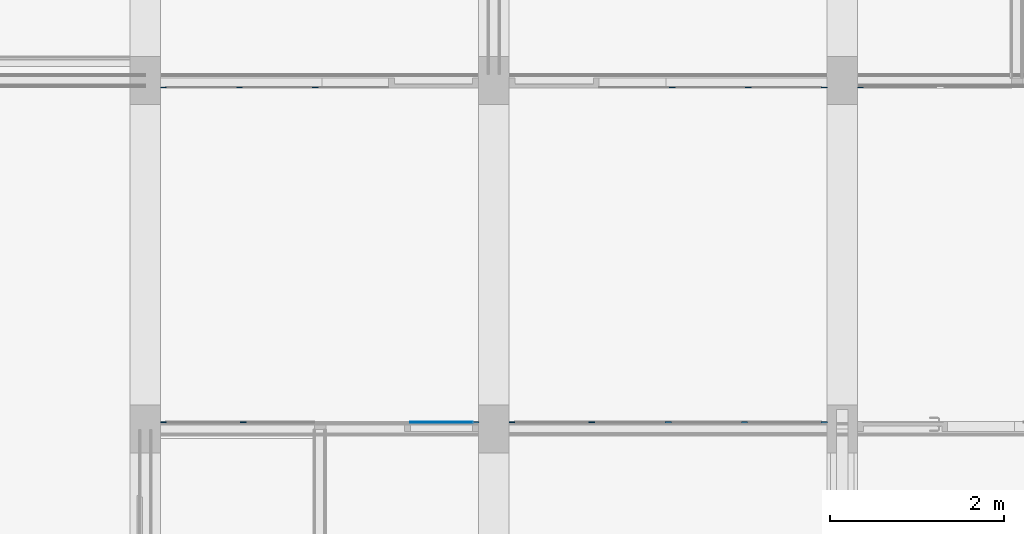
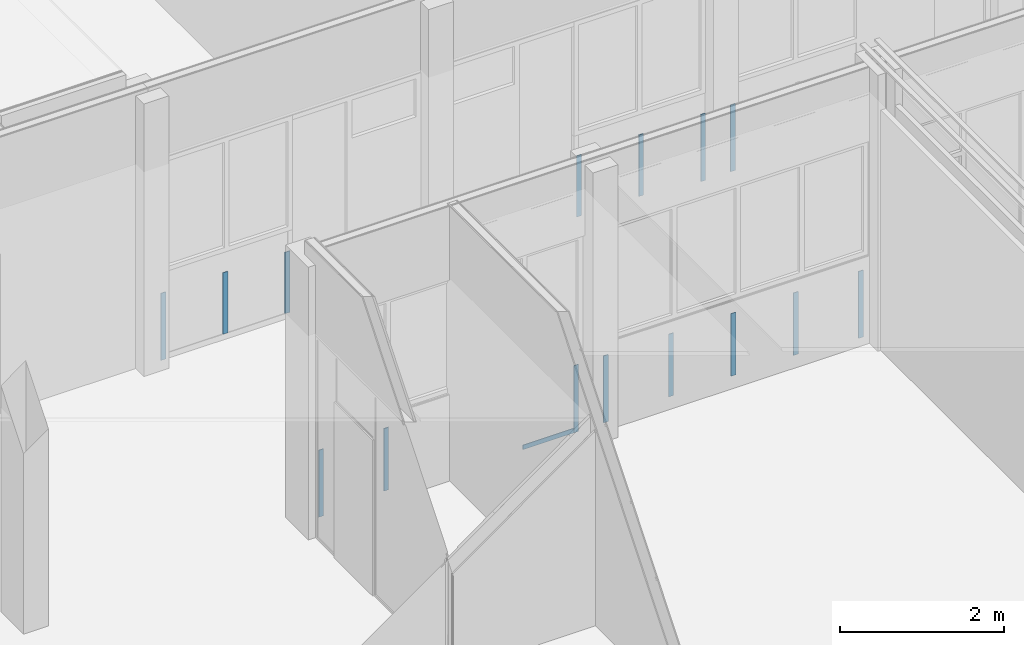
# One storey, part 30 of 94: 17 walls.
"""IFC2X3 building model written with IfcOpenShell, lengths in millimetres."""

from ifc_helpers import new_model, entity, si_unit, converted_unit, derived_unit, money_unit, direction, frame, origin_with_axes, place, context, subcontext, project, spatial, faceted_brep, material, type_object, element, save


model = new_model("IFC2X3")

# Units and contexts
model_context = context("Model", 3, precision=0.01, world=origin_with_axes(), true_north=direction((0.0, 1.0)))
body_context = subcontext(model_context, "Body", "Model", "MODEL_VIEW")
ifc_project = project(units=[si_unit("LENGTHUNIT", "METRE", prefix="MILLI"), si_unit("AREAUNIT", "SQUARE_METRE"), si_unit("VOLUMEUNIT", "CUBIC_METRE"), converted_unit("PLANEANGLEUNIT", "DEGREE", entity("IfcPlaneAngleMeasure", 0.0174532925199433), si_unit("PLANEANGLEUNIT", "RADIAN"), dimensions=[0, 0, 0, 0, 0, 0, 0]), money_unit("EUR"), converted_unit("TIMEUNIT", "Year", entity("IfcTimeMeasure", 31557600.0), si_unit("TIMEUNIT", "SECOND"), dimensions=[0, 0, 1, 0, 0, 0, 0]), si_unit("MASSUNIT", "GRAM", prefix="KILO"), si_unit("THERMODYNAMICTEMPERATUREUNIT", "DEGREE_CELSIUS"), si_unit("LUMINOUSINTENSITYUNIT", "LUMEN"), si_unit("ENERGYUNIT", "JOULE", prefix="MEGA"), derived_unit("THERMALCONDUCTANCEUNIT", [(si_unit("POWERUNIT", "WATT"), 1), (si_unit("LENGTHUNIT", "METRE"), -1), (si_unit("THERMODYNAMICTEMPERATUREUNIT", "KELVIN"), -1)]), derived_unit("SPECIFICHEATCAPACITYUNIT", [(si_unit("ENERGYUNIT", "JOULE"), 1), (si_unit("MASSUNIT", "GRAM", prefix="KILO"), -1), (si_unit("THERMODYNAMICTEMPERATUREUNIT", "KELVIN"), -1)]), derived_unit("MASSDENSITYUNIT", [(si_unit("MASSUNIT", "GRAM", prefix="KILO"), 1), (si_unit("VOLUMEUNIT", "CUBIC_METRE"), -1)])], contexts=[model_context])

# Site, building, storey
site_placement = place(None, origin_with_axes())
site = spatial("IfcSite", under=ifc_project, at=site_placement, Name="<site naam>", CompositionType="ELEMENT")
building_placement = place(site_placement, origin_with_axes())
building = spatial("IfcBuilding", under=site, at=building_placement, Name="<Naam gebouw>", CompositionType="ELEMENT")
storey_placement = place(building_placement, frame((0.0, 0.0, 4250.0), z_axis=(0.0, 0.0, 1.0), x_axis=(1.0, 0.0, 0.0)))
storey = spatial("IfcBuildingStorey", under=building, at=storey_placement, Name="01 1e verdieping", CompositionType="ELEMENT", Elevation=4250.0)

# Walls
ifc_material = material(Name="ALG - BUITENAFWERKING")
wall_type = type_object("IfcWallType", Name="ALG - BUITENAFWERKING 10", PredefinedType="NOTDEFINED")
wall_1_placement = place(storey_placement, frame((27757.93390346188, 8075.000000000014, 3.000000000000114), z_axis=(0.0, 0.0, 1.0), x_axis=(1.0, 0.0, 0.0)))
element("IfcWall", 1, at=wall_1_placement, inside=storey, type_object=wall_type, material=ifc_material, Name="42_Binnenwand_ALG", context=body_context, shape_type="Brep", body=[
    faceted_brep([(0.0, 0.0, 995.9999999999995), (67.00000000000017, 0.0, 995.9999999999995), (67.00000000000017, 9.999999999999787, 995.9999999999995), (0.0, 9.999999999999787, 995.9999999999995), (0.0, 0.0, 0.0), (67.00000000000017, 0.0, 0.0), (67.00000000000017, 9.999999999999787, 0.0), (0.0, 9.999999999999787, 0.0)], [[[0, 1, 2, 3]], [[4, 5, 1, 0]], [[2, 1, 5, 6]], [[3, 2, 6, 7]], [[4, 0, 3, 7]], [[7, 6, 5, 4]]]),
])
for number, where, z_axis, x_axis, name in (
    (2, (25966.46698874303, 8075.000000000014, 70.00000000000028), (0.0, 0.0, 1.0), (1.0, 0.0, 0.0), "42_Binnenwand_ALG"),
    (3, (25966.46695173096, 8075.000000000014, 70.00000000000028), (0.0, 0.0, 1.0), (1.0, 0.0, 0.0), "42_Binnenwand_ALG"),
    (4, (26842.71778169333, 8075.000000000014, 70.00000000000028), (0.0, 0.0, 1.0), (1.0, 0.0, 0.0), "42_Binnenwand_ALG"),
):
    element("IfcWall", number, at=place(storey_placement, frame(where, z_axis=z_axis, x_axis=x_axis)), inside=storey, type_object=wall_type, material=ifc_material, Name=name, context=body_context, shape_type="Brep", body=[
        faceted_brep([(0.0, 0.0, 928.9999999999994), (67.00000000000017, 0.0, 928.9999999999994), (67.00000000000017, 9.999999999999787, 928.9999999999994), (0.0, 9.999999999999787, 928.9999999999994), (0.0, 0.0, 0.0), (67.00000000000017, 0.0, 0.0), (67.00000000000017, 9.999999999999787, 0.0), (0.0, 9.999999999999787, 0.0)], [[[0, 1, 2, 3]], [[4, 5, 1, 0]], [[2, 1, 5, 6]], [[3, 2, 6, 7]], [[4, 0, 3, 7]], [[7, 6, 5, 4]]]),
    ])
wall_2_placement = place(storey_placement, frame((24175.00000000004, 8075.000000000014, 0.0), z_axis=(0.0, 0.0, 1.0), x_axis=(1.0, 0.0, 0.0)))
element("IfcWall", 5, at=wall_2_placement, inside=storey, type_object=wall_type, material=ifc_material, Name="42_Binnenwand_ALG", context=body_context, shape_type="Brep", body=[
    faceted_brep([(67.00000000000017, 0.0, 998.9999999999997), (67.00000000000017, 0.0, 3.000000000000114), (67.00000000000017, 9.999999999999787, 3.000000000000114), (67.00000000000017, 9.999999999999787, 998.9999999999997), (0.0, 0.0, 998.9999999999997), (0.0, 0.0, 3.000000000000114), (0.0, 9.999999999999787, 3.000000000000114), (0.0, 9.999999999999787, 998.9999999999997)], [[[0, 1, 2, 3]], [[4, 5, 1, 0]], [[5, 6, 2, 1]], [[3, 2, 6, 7]], [[7, 4, 0, 3]], [[7, 6, 5, 4]]]),
])
wall_3_placement = place(storey_placement, frame((25157.28201268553, 8075.000000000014, 70.00000000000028), z_axis=(0.0, 0.0, 1.0), x_axis=(-1.0, 0.0, 0.0)))
element("IfcWall", 6, at=wall_3_placement, inside=storey, type_object=wall_type, material=ifc_material, Name="42_Binnenwand_ALG", context=body_context, shape_type="Brep", body=[
    faceted_brep([(0.0, 0.0, 0.0), (67.00000000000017, 0.0, 0.0), (67.00000000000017, -9.999999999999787, 0.0), (0.0, -9.999999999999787, 0.0), (0.0, 0.0, 928.9999999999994), (67.00000000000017, 0.0, 928.9999999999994), (67.00000000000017, -9.999999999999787, 928.9999999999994), (0.0, -9.999999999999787, 928.9999999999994)], [[[0, 1, 2, 3]], [[4, 5, 1, 0]], [[2, 1, 5, 6]], [[3, 2, 6, 7]], [[4, 0, 3, 7]], [[7, 6, 5, 4]]]),
])
wall_4_placement = place(storey_placement, frame((27758.00000000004, 11925.00000000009, 0.0), z_axis=(0.0, 0.0, 1.0), x_axis=(1.0, 0.0, 0.0)))
element("IfcWall", 7, at=wall_4_placement, inside=storey, type_object=wall_type, material=ifc_material, Name="42_Binnenwand_ALG", context=body_context, shape_type="Brep", body=[
    faceted_brep([(67.00000000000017, -9.999999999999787, 999.0000000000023), (66.9999999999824, -9.999999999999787, 3.000000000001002), (66.9999999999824, 0.0, 3.000000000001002), (67.00000000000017, 0.0, 999.0000000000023), (0.0, -9.999999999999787, 999.0000000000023), (0.0, -9.999999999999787, 3.000000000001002), (0.0, 0.0, 3.000000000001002), (0.0, 0.0, 999.0000000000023)], [[[0, 1, 2, 3]], [[4, 5, 1, 0]], [[5, 6, 2, 1]], [[3, 2, 6, 7]], [[7, 4, 0, 3]], [[7, 6, 5, 4]]]),
])
wall_5_placement = place(storey_placement, frame((26014.41146493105, 11925.00000000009, 86.99999999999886), z_axis=(0.0, 0.0, 1.0), x_axis=(1.0, 0.0, 0.0)))
element("IfcWall", 8, at=wall_5_placement, inside=storey, type_object=wall_type, material=ifc_material, Name="42_Binnenwand_ALG", context=body_context, shape_type="Brep", body=[
    faceted_brep([(0.0, 0.0, 0.0), (67.00000000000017, 0.0, 0.0), (67.00000000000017, -9.999999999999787, 0.0), (0.0, -9.999999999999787, 0.0), (0.0, 0.0, 912.0000000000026), (67.00000000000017, 0.0, 912.0000000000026), (67.00000000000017, -9.999999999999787, 912.0000000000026), (0.0, -9.999999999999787, 912.0000000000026)], [[[0, 1, 2, 3]], [[4, 5, 1, 0]], [[2, 1, 5, 6]], [[3, 2, 6, 7]], [[4, 0, 3, 7]], [[7, 6, 5, 4]]]),
])
wall_6_placement = place(storey_placement, frame((20242.00000000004, 11925.00000000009, 0.0), z_axis=(0.0, 0.0, 1.0), x_axis=(-1.0, 0.0, 0.0)))
element("IfcWall", 9, at=wall_6_placement, inside=storey, type_object=wall_type, material=ifc_material, Name="42_Binnenwand_ALG", context=body_context, shape_type="Brep", body=[
    faceted_brep([(0.0, 9.999999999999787, 999.0000000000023), (0.0, 9.999999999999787, 3.000000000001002), (0.0, 0.0, 3.000000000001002), (0.0, 0.0, 999.0000000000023), (67.00000000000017, 9.999999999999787, 999.0000000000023), (67.00000000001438, 9.999999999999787, 3.000000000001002), (67.00000000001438, 0.0, 3.000000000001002), (67.00000000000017, 0.0, 999.0000000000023)], [[[0, 1, 2, 3]], [[4, 5, 1, 0]], [[5, 6, 2, 1]], [[3, 2, 6, 7]], [[0, 3, 7, 4]], [[7, 6, 5, 4]]]),
])
wall_7_placement = place(storey_placement, frame((26886.00084066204, 11925.00000000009, 86.99999999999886), z_axis=(0.0, 0.0, 1.0), x_axis=(1.0, 0.0, 0.0)))
element("IfcWall", 10, at=wall_7_placement, inside=storey, type_object=wall_type, material=ifc_material, Name="42_Binnenwand_ALG", context=body_context, shape_type="Brep", body=[
    faceted_brep([(0.0, 0.0, 0.0), (67.00000000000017, 0.0, 0.0), (67.00000000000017, -9.999999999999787, 0.0), (0.0, -9.999999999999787, 0.0), (0.0, 0.0, 912.0000000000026), (67.00000000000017, 0.0, 912.0000000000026), (67.00000000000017, -9.999999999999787, 912.0000000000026), (0.0, -9.999999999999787, 912.0000000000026)], [[[0, 1, 2, 3]], [[4, 5, 1, 0]], [[2, 1, 5, 6]], [[3, 2, 6, 7]], [[4, 0, 3, 7]], [[7, 6, 5, 4]]]),
])
for number, where, z_axis, x_axis, name in (
    (11, (21985.58853506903, 11925.00000000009, 86.99999999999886), (0.0, 0.0, 1.0), (-1.0, 0.0, 0.0), "42_Binnenwand_ALG"),
    (12, (21113.99915933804, 11925.00000000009, 86.99999999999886), (0.0, 0.0, 1.0), (-1.0, 0.0, 0.0), "42_Binnenwand_ALG"),
):
    element("IfcWall", number, at=place(storey_placement, frame(where, z_axis=z_axis, x_axis=x_axis)), inside=storey, type_object=wall_type, material=ifc_material, Name=name, context=body_context, shape_type="Brep", body=[
        faceted_brep([(0.0, 0.0, 912.0000000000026), (67.00000000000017, 0.0, 912.0000000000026), (67.00000000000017, 9.999999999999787, 912.0000000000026), (0.0, 9.999999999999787, 912.0000000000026), (0.0, 0.0, 0.0), (67.00000000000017, 0.0, 0.0), (67.00000000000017, 9.999999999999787, 0.0), (0.0, 9.999999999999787, 0.0)], [[[0, 1, 2, 3]], [[4, 5, 1, 0]], [[2, 1, 5, 6]], [[3, 2, 6, 7]], [[4, 0, 3, 7]], [[7, 6, 5, 4]]]),
    ])
wall_8_placement = place(storey_placement, frame((20175.00010281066, 8075.000000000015, 0.0), z_axis=(0.0, 0.0, 1.0), x_axis=(1.0, 0.0, 0.0)))
element("IfcWall", 13, at=wall_8_placement, inside=storey, type_object=wall_type, material=ifc_material, Name="42_Binnenwand_ALG", context=body_context, shape_type="Brep", body=[
    faceted_brep([(67.00000000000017, 0.0, 998.9999999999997), (67.00000000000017, 0.0, 3.000000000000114), (67.00000000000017, 9.999999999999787, 3.000000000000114), (67.00000000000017, 9.999999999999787, 998.9999999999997), (0.0, 0.0, 998.9999999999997), (-0.0001028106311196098, 0.0, 3.000000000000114), (-0.0001028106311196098, 9.999999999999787, 3.000000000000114), (0.0, 9.999999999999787, 998.9999999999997)], [[[0, 1, 2, 3]], [[4, 5, 1, 0]], [[5, 6, 2, 1]], [[3, 2, 6, 7]], [[7, 4, 0, 3]], [[7, 6, 5, 4]]]),
])
wall_9_placement = place(storey_placement, frame((28175.00010281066, 11925.00000000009, 0.0), z_axis=(0.0, 0.0, 1.0), x_axis=(1.0, 0.0, 0.0)))
element("IfcWall", 14, at=wall_9_placement, inside=storey, type_object=wall_type, material=ifc_material, Name="42_Binnenwand_ALG", context=body_context, shape_type="Brep", body=[
    faceted_brep([(67.00000000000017, -9.999999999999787, 998.9999999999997), (67.00000000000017, -9.999999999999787, 3.000000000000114), (67.00000000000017, 0.0, 3.000000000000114), (67.00000000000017, 0.0, 998.9999999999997), (0.0, -9.999999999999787, 998.9999999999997), (-0.0001028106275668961, -9.999999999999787, 3.000000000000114), (-0.0001028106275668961, 0.0, 3.000000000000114), (0.0, 0.0, 998.9999999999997)], [[[0, 1, 2, 3]], [[4, 5, 1, 0]], [[5, 6, 2, 1]], [[3, 2, 6, 7]], [[7, 4, 0, 3]], [[7, 6, 5, 4]]]),
])
wall_10_placement = place(storey_placement, frame((23042.26997527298, 8075.000000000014, 3.000000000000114), z_axis=(0.0, 0.0, 1.0), x_axis=(1.0, 0.0, 0.0)))
element("IfcWall", 15, at=wall_10_placement, inside=storey, type_object=wall_type, material=ifc_material, Name="42_Binnenwand_ALG", context=body_context, shape_type="Brep", body=[
    faceted_brep([(0.0, 0.0, 67.00000000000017), (714.7299877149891, 0.0, 67.00000000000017), (714.7299877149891, 9.99999999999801, 67.00000000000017), (0.0, 9.999999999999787, 67.00000000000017), (0.0, 0.0, 0.0), (714.7299877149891, 0.0, 0.0), (714.7299877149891, 9.99999999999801, 0.0), (0.0, 9.999999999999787, 0.0)], [[[0, 1, 2, 3]], [[4, 5, 1, 0]], [[2, 1, 5, 6]], [[3, 2, 6, 7]], [[4, 0, 3, 7]], [[7, 6, 5, 4]]]),
])
wall_11_placement = place(storey_placement, frame((21157.28211549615, 8075.000000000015, 70.00000000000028), z_axis=(0.0, 0.0, 1.0), x_axis=(-1.0, 0.0, 0.0)))
element("IfcWall", 16, at=wall_11_placement, inside=storey, type_object=wall_type, material=ifc_material, Name="42_Binnenwand_ALG", context=body_context, shape_type="Brep", body=[
    faceted_brep([(0.0, 0.0, 0.0), (67.00000000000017, 0.0, 0.0), (67.00000000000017, -9.999999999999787, 0.0), (0.0, -9.999999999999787, 0.0), (0.0, 0.0, 928.9999999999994), (67.00000000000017, 0.0, 928.9999999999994), (67.00000000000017, -9.999999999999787, 928.9999999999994), (0.0, -9.999999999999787, 928.9999999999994)], [[[0, 1, 2, 3]], [[4, 5, 1, 0]], [[2, 1, 5, 6]], [[3, 2, 6, 7]], [[4, 0, 3, 7]], [[7, 6, 5, 4]]]),
])
wall_12_placement = place(storey_placement, frame((23757.9340062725, 8075.000000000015, 3.000000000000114), z_axis=(0.0, 0.0, 1.0), x_axis=(1.0, 0.0, 0.0)))
element("IfcWall", 17, at=wall_12_placement, inside=storey, type_object=wall_type, material=ifc_material, Name="42_Binnenwand_ALG", context=body_context, shape_type="Brep", body=[
    faceted_brep([(0.0, 0.0, 995.9999999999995), (67.00000000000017, 0.0, 995.9999999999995), (67.00000000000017, 9.999999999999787, 995.9999999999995), (0.0, 9.999999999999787, 995.9999999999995), (0.0, 0.0, 0.0), (67.00000000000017, 0.0, 0.0), (67.00000000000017, 9.999999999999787, 0.0), (0.0, 9.999999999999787, 0.0)], [[[0, 1, 2, 3]], [[4, 5, 1, 0]], [[2, 1, 5, 6]], [[3, 2, 6, 7]], [[4, 0, 3, 7]], [[7, 6, 5, 4]]]),
])

save(model, "model.ifc")
